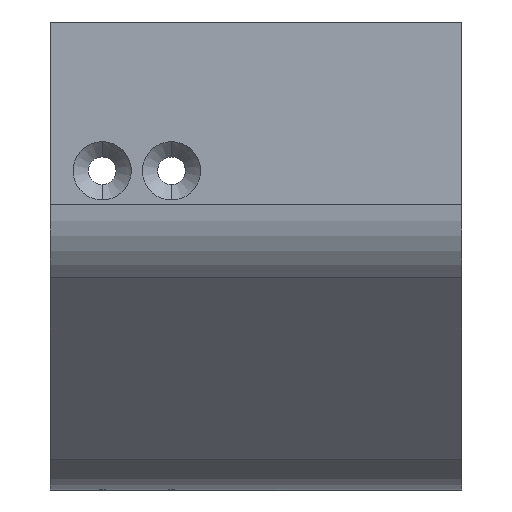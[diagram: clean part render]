
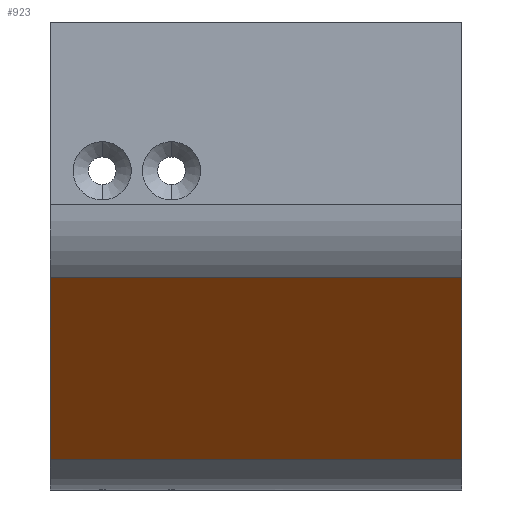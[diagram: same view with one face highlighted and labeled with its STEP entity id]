
A CAD part, front view. The second image highlights one B-rep face of the part: STEP entity #923.
In plain terms, the highlighted planar face has unit normal (0, -0.707, -0.707).
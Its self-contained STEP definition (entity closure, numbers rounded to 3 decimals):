
#9=DIRECTION('',(1.,0.,0.));
#10=VECTOR('',#9,47.5);
#11=CARTESIAN_POINT('',(15.5,-38.515,-123.485));
#12=LINE('',#11,#10);
#153=DIRECTION('',(0.,-0.707,0.707));
#154=VECTOR('',#153,29.657);
#155=CARTESIAN_POINT('',(63.,-38.515,-123.485));
#156=LINE('',#155,#154);
#226=DIRECTION('',(-1.,0.,0.));
#227=VECTOR('',#226,47.5);
#228=CARTESIAN_POINT('',(63.,-59.485,-102.515));
#229=LINE('',#228,#227);
#259=DIRECTION('',(0.,0.707,-0.707));
#260=VECTOR('',#259,29.657);
#261=CARTESIAN_POINT('',(15.5,-59.485,-102.515));
#262=LINE('',#261,#260);
#520=CARTESIAN_POINT('',(15.5,-38.515,-123.485));
#521=VERTEX_POINT('',#520);
#522=CARTESIAN_POINT('',(63.,-38.515,-123.485));
#523=VERTEX_POINT('',#522);
#580=CARTESIAN_POINT('',(63.,-59.485,-102.515));
#581=VERTEX_POINT('',#580);
#620=CARTESIAN_POINT('',(15.5,-59.485,-102.515));
#621=VERTEX_POINT('',#620);
#911=CARTESIAN_POINT('',(1285.713,-49.,-113.));
#912=DIRECTION('',(0.,-0.707,-0.707));
#913=DIRECTION('',(0.,0.707,-0.707));
#914=AXIS2_PLACEMENT_3D('',#911,#912,#913);
#915=PLANE('',#914);
#916=ORIENTED_EDGE('',*,*,#904,.F.);
#917=ORIENTED_EDGE('',*,*,#819,.F.);
#918=ORIENTED_EDGE('',*,*,#669,.F.);
#920=ORIENTED_EDGE('',*,*,#919,.F.);
#921=EDGE_LOOP('',(#916,#917,#918,#920));
#922=FACE_OUTER_BOUND('',#921,.F.);
#923=ADVANCED_FACE('',(#922),#915,.T.);
#669=EDGE_CURVE('',#521,#523,#12,.T.);
#819=EDGE_CURVE('',#523,#581,#156,.T.);
#904=EDGE_CURVE('',#581,#621,#229,.T.);
#919=EDGE_CURVE('',#621,#521,#262,.T.);
